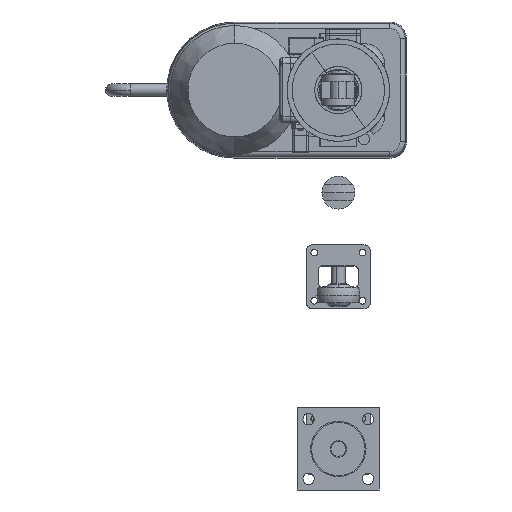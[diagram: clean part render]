
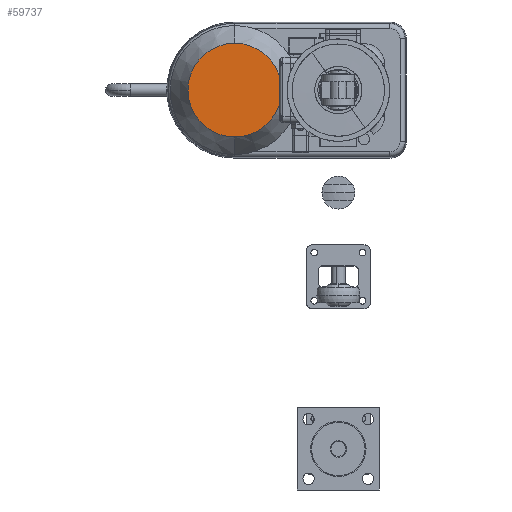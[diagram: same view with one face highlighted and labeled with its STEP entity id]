
A CAD part, left-side view. The second image highlights one B-rep face of the part: STEP entity #59737.
In plain terms, the highlighted planar face has unit normal (-1, 0, 0) as drawn and (0, 0, -1) by its records, which use the part's own axes.
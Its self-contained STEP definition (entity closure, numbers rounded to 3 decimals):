
#659 = AXIS2_PLACEMENT_3D ( 'NONE', #21529, #21530, #21531 ) ;
#703 = AXIS2_PLACEMENT_3D ( 'NONE', #21580, #21581, #21582 ) ;
#1551 = CIRCLE ( 'NONE', #659, 45.679 ) ;
#1618 = CIRCLE ( 'NONE', #703, 45.679 ) ;
#3804 = ORIENTED_EDGE ( 'NONE', *, *, #63547, .F. ) ;
#4485 = ORIENTED_EDGE ( 'NONE', *, *, #63698, .F. ) ;
#15388 = CARTESIAN_POINT ( 'NONE',  ( 28.722, 66.701, -262.569 ) ) ;
#15395 = CARTESIAN_POINT ( 'NONE',  ( -62.637, 66.701, -262.569 ) ) ;
#21529 = CARTESIAN_POINT ( 'NONE',  ( -16.958, 66.701, -262.569 ) ) ;
#21530 = DIRECTION ( 'NONE',  ( 0., 0., 1. ) ) ;
#21531 = DIRECTION ( 'NONE',  ( 1., 0., 0. ) ) ;
#21580 = CARTESIAN_POINT ( 'NONE',  ( -16.958, 66.701, -262.569 ) ) ;
#21581 = DIRECTION ( 'NONE',  ( 0., 0., 1. ) ) ;
#21582 = DIRECTION ( 'NONE',  ( 1., 0., 0. ) ) ;
#32343 = CARTESIAN_POINT ( 'NONE',  ( -16.958, 112.38, -262.569 ) ) ;
#32351 = PLANE ( 'NONE',  #66876 ) ;
#32358 = DIRECTION ( 'NONE',  ( 0., 0., 1. ) ) ;
#32361 = DIRECTION ( 'NONE',  ( 1., 0., 0. ) ) ;
#37579 = EDGE_LOOP ( 'NONE', ( #3804, #4485 ) ) ;
#43468 = FACE_OUTER_BOUND ( 'NONE', #37579, .T. ) ;
#59737 = ADVANCED_FACE ( 'NONE', ( #43468 ), #32351, .F. ) ;
#63547 = EDGE_CURVE ( 'NONE', #66493, #66496, #1551, .T. ) ;
#63698 = EDGE_CURVE ( 'NONE', #66496, #66493, #1618, .T. ) ;
#66493 = VERTEX_POINT ( 'NONE', #15388 ) ;
#66496 = VERTEX_POINT ( 'NONE', #15395 ) ;
#66876 = AXIS2_PLACEMENT_3D ( 'NONE', #32343, #32358, #32361 ) ;
